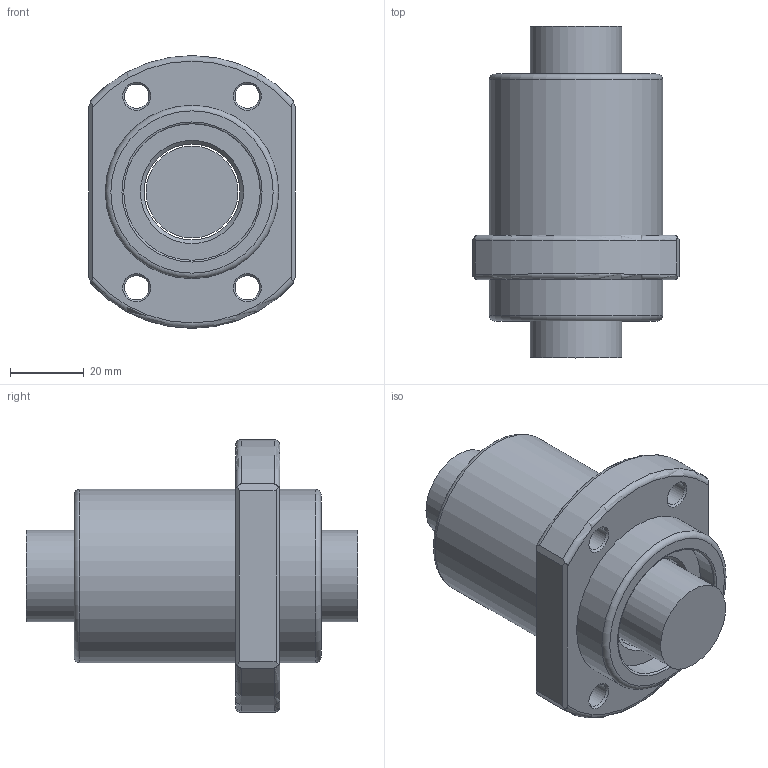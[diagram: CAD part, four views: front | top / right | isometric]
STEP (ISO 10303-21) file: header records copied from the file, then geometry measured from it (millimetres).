
FILE_DESCRIPTION(/* description */ (''),/* implementation_level */ '2;1');
FILE_NAME(/* name */ '2525.prt.step',/* time_stamp */ '2008-12-05T09:31:49+08:00',/* author */ (''),/* organization */ (''),/* preprocessor_version */ 'ST-DEVELOPER v11',/* originating_system */ 'SIEMENS UGS NX 6.0',/* authorisation */ '');
FILE_SCHEMA (('AUTOMOTIVE_DESIGN { 1 0 10303 214 1 1 1 1 }'));
Length unit declared in the file: millimetre
Products named in the file (1): 2525
Bounding box: 56 x 90 x 74 mm (x, y, z)
Volume: 139860.3 mm3; surface area: 31114.5 mm2
Topology: 2 solids, 2 shells, 48 faces, 110 edges, 70 vertices
Faces by surface type: plane 18, cylinder 12, cone 10, torus 8
Full cylindrical faces by diameter (mm): 6.6 x4, 24.95 x1, 26 x1, 37 x2, 47 x2
Entity records: 1458 total; most frequent: CARTESIAN_POINT 437, DIRECTION 206, ORIENTED_EDGE 164, AXIS2_PLACEMENT_3D 91, EDGE_LOOP 86, EDGE_CURVE 82, FACE_BOUND 68, VERTEX_POINT 66
